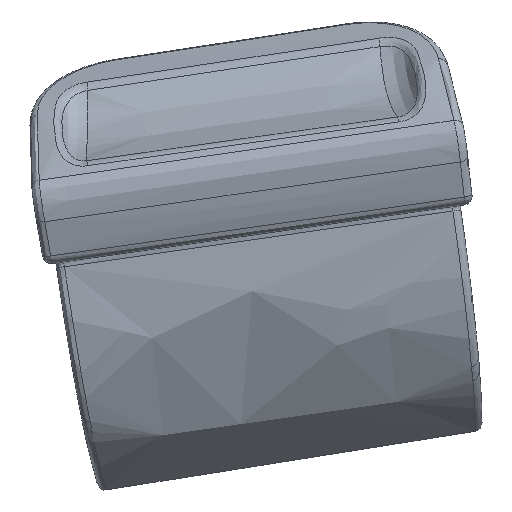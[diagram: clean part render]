
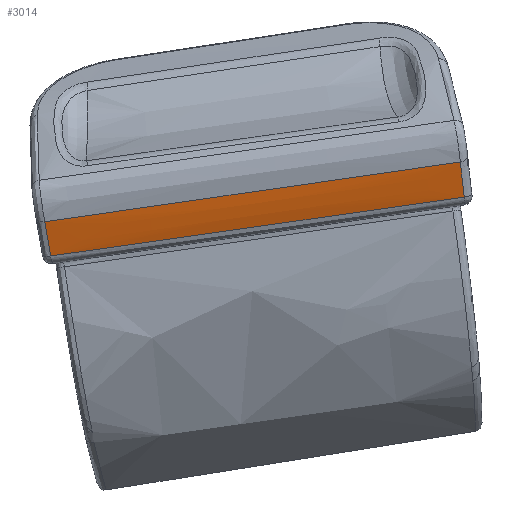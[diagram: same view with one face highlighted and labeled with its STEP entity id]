
A CAD part, front view. The second image highlights one B-rep face of the part: STEP entity #3014.
In plain terms, the highlighted free-form (B-spline) face has degree [5, 3] with [13, 4] control points.
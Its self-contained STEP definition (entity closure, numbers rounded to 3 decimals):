
#1346=CARTESIAN_POINT('Vertex',(-345.173,-986.772,483.1)) ;
#1350=CARTESIAN_POINT('Control Point',(-273.702,-988.544,493.4)) ;
#1351=CARTESIAN_POINT('Control Point',(-273.927,-988.543,493.376)) ;
#1352=CARTESIAN_POINT('Control Point',(-274.372,-988.531,493.297)) ;
#1353=CARTESIAN_POINT('Control Point',(-275.266,-988.519,493.179)) ;
#1354=CARTESIAN_POINT('Control Point',(-277.054,-988.485,492.915)) ;
#1355=CARTESIAN_POINT('Control Point',(-279.735,-988.438,492.533)) ;
#1356=CARTESIAN_POINT('Control Point',(-283.085,-988.373,492.047)) ;
#1357=CARTESIAN_POINT('Control Point',(-287.995,-988.276,491.341)) ;
#1358=CARTESIAN_POINT('Control Point',(-294.255,-988.143,490.437)) ;
#1359=CARTESIAN_POINT('Control Point',(-301.398,-987.982,489.408)) ;
#1360=CARTESIAN_POINT('Control Point',(-309.442,-987.787,488.248)) ;
#1361=CARTESIAN_POINT('Control Point',(-318.377,-987.555,486.961)) ;
#1362=CARTESIAN_POINT('Control Point',(-327.302,-987.309,485.674)) ;
#1363=CARTESIAN_POINT('Control Point',(-334.457,-987.102,484.645)) ;
#1364=CARTESIAN_POINT('Control Point',(-339.813,-986.939,483.871)) ;
#1365=CARTESIAN_POINT('Control Point',(-343.382,-986.829,483.359)) ;
#1366=CARTESIAN_POINT('Control Point',(-345.173,-986.772,483.1)) ;
#1367=CARTESIAN_POINT('Vertex',(-273.702,-988.544,493.4)) ;
#2932=CARTESIAN_POINT('Control Point',(-514.328,-975.152,460.662)) ;
#2933=CARTESIAN_POINT('Control Point',(-509.583,-965.301,427.321)) ;
#2934=CARTESIAN_POINT('Control Point',(-504.838,-944.886,393.979)) ;
#2935=CARTESIAN_POINT('Control Point',(-502.145,-920.368,360.345)) ;
#2936=CARTESIAN_POINT('Control Point',(-499.545,-977.539,462.793)) ;
#2937=CARTESIAN_POINT('Control Point',(-494.8,-967.688,429.451)) ;
#2938=CARTESIAN_POINT('Control Point',(-490.054,-947.273,396.11)) ;
#2939=CARTESIAN_POINT('Control Point',(-487.362,-922.755,362.476)) ;
#2940=CARTESIAN_POINT('Control Point',(-469.98,-981.527,467.053)) ;
#2941=CARTESIAN_POINT('Control Point',(-465.235,-971.676,433.712)) ;
#2942=CARTESIAN_POINT('Control Point',(-460.49,-951.261,400.37)) ;
#2943=CARTESIAN_POINT('Control Point',(-457.797,-926.743,366.736)) ;
#2944=CARTESIAN_POINT('Control Point',(-425.63,-984.508,473.444)) ;
#2945=CARTESIAN_POINT('Control Point',(-420.885,-974.658,440.103)) ;
#2946=CARTESIAN_POINT('Control Point',(-416.14,-954.242,406.761)) ;
#2947=CARTESIAN_POINT('Control Point',(-413.448,-929.725,373.127)) ;
#2948=CARTESIAN_POINT('Control Point',(-366.5,-986.845,481.965)) ;
#2949=CARTESIAN_POINT('Control Point',(-361.754,-976.994,448.624)) ;
#2950=CARTESIAN_POINT('Control Point',(-357.009,-956.579,415.282)) ;
#2951=CARTESIAN_POINT('Control Point',(-352.54,-930.267,381.901)) ;
#2952=CARTESIAN_POINT('Control Point',(-292.585,-989.026,492.617)) ;
#2953=CARTESIAN_POINT('Control Point',(-287.84,-979.176,459.275)) ;
#2954=CARTESIAN_POINT('Control Point',(-283.095,-958.76,425.933)) ;
#2955=CARTESIAN_POINT('Control Point',(-278.981,-930.296,392.501)) ;
#2956=CARTESIAN_POINT('Control Point',(-218.67,-990.151,503.268)) ;
#2957=CARTESIAN_POINT('Control Point',(-213.925,-980.3,469.926)) ;
#2958=CARTESIAN_POINT('Control Point',(-209.18,-959.885,436.585)) ;
#2959=CARTESIAN_POINT('Control Point',(-204.355,-930.343,403.254)) ;
#2960=CARTESIAN_POINT('Control Point',(-144.757,-989.099,513.919)) ;
#2961=CARTESIAN_POINT('Control Point',(-140.012,-979.248,480.578)) ;
#2962=CARTESIAN_POINT('Control Point',(-135.267,-958.833,447.236)) ;
#2963=CARTESIAN_POINT('Control Point',(-130.441,-930.727,413.905)) ;
#2964=CARTESIAN_POINT('Control Point',(-70.841,-985.695,524.57)) ;
#2965=CARTESIAN_POINT('Control Point',(-66.096,-975.844,491.229)) ;
#2966=CARTESIAN_POINT('Control Point',(-61.351,-955.429,457.887)) ;
#2967=CARTESIAN_POINT('Control Point',(-58.658,-929.476,424.253)) ;
#2968=CARTESIAN_POINT('Control Point',(-11.712,-979.308,533.091)) ;
#2969=CARTESIAN_POINT('Control Point',(-6.967,-969.457,499.749)) ;
#2970=CARTESIAN_POINT('Control Point',(-2.221,-949.041,466.407)) ;
#2971=CARTESIAN_POINT('Control Point',(0.471,-924.524,432.773)) ;
#2972=CARTESIAN_POINT('Control Point',(32.639,-971.312,539.482)) ;
#2973=CARTESIAN_POINT('Control Point',(37.384,-961.461,506.14)) ;
#2974=CARTESIAN_POINT('Control Point',(42.13,-941.046,472.798)) ;
#2975=CARTESIAN_POINT('Control Point',(44.822,-916.528,439.164)) ;
#2976=CARTESIAN_POINT('Control Point',(62.203,-964.283,543.742)) ;
#2977=CARTESIAN_POINT('Control Point',(66.948,-954.432,510.4)) ;
#2978=CARTESIAN_POINT('Control Point',(71.693,-934.017,477.058)) ;
#2979=CARTESIAN_POINT('Control Point',(74.386,-909.499,443.424)) ;
#2980=CARTESIAN_POINT('Control Point',(76.987,-960.297,545.872)) ;
#2981=CARTESIAN_POINT('Control Point',(81.732,-950.446,512.53)) ;
#2982=CARTESIAN_POINT('Control Point',(86.477,-930.031,479.188)) ;
#2983=CARTESIAN_POINT('Control Point',(89.17,-905.513,445.554)) ;
#2985=CARTESIAN_POINT('Control Point',(-344.167,-984.854,477.223)) ;
#2986=CARTESIAN_POINT('Control Point',(-344.505,-985.529,479.181)) ;
#2987=CARTESIAN_POINT('Control Point',(-344.841,-986.169,481.139)) ;
#2988=CARTESIAN_POINT('Control Point',(-345.173,-986.772,483.1)) ;
#2989=CARTESIAN_POINT('Vertex',(-344.167,-984.854,477.223)) ;
#2993=CARTESIAN_POINT('Control Point',(-344.167,-984.854,477.223)) ;
#2994=CARTESIAN_POINT('Control Point',(-326.378,-985.402,479.754)) ;
#2995=CARTESIAN_POINT('Control Point',(-308.602,-985.876,482.284)) ;
#2996=CARTESIAN_POINT('Control Point',(-290.809,-986.279,484.816)) ;
#2997=CARTESIAN_POINT('Control Point',(-273.024,-986.574,487.348)) ;
#2998=CARTESIAN_POINT('Vertex',(-273.024,-986.574,487.348)) ;
#3002=CARTESIAN_POINT('Control Point',(-273.702,-988.544,493.4)) ;
#3003=CARTESIAN_POINT('Control Point',(-273.535,-988.081,491.888)) ;
#3004=CARTESIAN_POINT('Control Point',(-273.364,-987.596,490.37)) ;
#3005=CARTESIAN_POINT('Control Point',(-273.193,-987.094,488.857)) ;
#3006=CARTESIAN_POINT('Control Point',(-273.024,-986.574,487.348)) ;
#3009=ORIENTED_EDGE('',*,*,#2991,.F.) ;
#3010=ORIENTED_EDGE('',*,*,#3000,.T.) ;
#3011=ORIENTED_EDGE('',*,*,#3007,.F.) ;
#3012=ORIENTED_EDGE('',*,*,#1369,.F.) ;
#3014=ADVANCED_FACE('Product57_AllCATPart.1\\01.2\\ShouBing.1\\\X2\624B67C4\X0\-2',(#3013),#2931,.F.) ;
#1349=B_SPLINE_CURVE_WITH_KNOTS('',5,(#1350,#1351,#1352,#1353,#1354,#1355,#1356,#1357,#1358,#1359,#1360,#1361,#1362,#1363,#1364,#1365,#1366),.UNSPECIFIED.,.F.,.U.,(6,1,1,1,1,1,1,1,1,1,1,1,6),(0.,1.129,2.259,4.518,9.035,13.553,18.07,27.105,36.14,45.176,54.211,63.246,72.281),.UNSPECIFIED.) ;
#2984=B_SPLINE_CURVE_WITH_KNOTS('',3,(#2985,#2986,#2987,#2988),.UNSPECIFIED.,.F.,.U.,(4,4),(0.,9.319),.UNSPECIFIED.) ;
#2992=B_SPLINE_CURVE_WITH_KNOTS('',4,(#2993,#2994,#2995,#2996,#2997),.UNSPECIFIED.,.F.,.U.,(5,5),(0.,101.882),.UNSPECIFIED.) ;
#3001=B_SPLINE_CURVE_WITH_KNOTS('',4,(#3002,#3003,#3004,#3005,#3006),.UNSPECIFIED.,.F.,.U.,(5,5),(0.,9.52),.UNSPECIFIED.) ;
#2931=B_SPLINE_SURFACE_WITH_KNOTS('',5,3,((#2932,#2933,#2934,#2935),(#2936,#2937,#2938,#2939),(#2940,#2941,#2942,#2943),(#2944,#2945,#2946,#2947),(#2948,#2949,#2950,#2951),(#2952,#2953,#2954,#2955),(#2956,#2957,#2958,#2959),(#2960,#2961,#2962,#2963),(#2964,#2965,#2966,#2967),(#2968,#2969,#2970,#2971),(#2972,#2973,#2974,#2975),(#2976,#2977,#2978,#2979),(#2980,#2981,#2982,#2983)),.UNSPECIFIED.,.F.,.F.,.U.,(6,1,1,1,1,1,1,1,6),(4,4),(0.,75.032,150.064,225.096,300.128,375.16,450.192,525.224,600.256),(0.,116.913),.UNSPECIFIED.) ;
#1369=EDGE_CURVE('',#1347,#1368,#1349,.F.) ;
#2991=EDGE_CURVE('',#2990,#1347,#2984,.T.) ;
#3000=EDGE_CURVE('',#2990,#2999,#2992,.T.) ;
#3007=EDGE_CURVE('',#1368,#2999,#3001,.T.) ;
#3008=EDGE_LOOP('',(#3009,#3010,#3011,#3012)) ;
#3013=FACE_OUTER_BOUND('',#3008,.T.) ;
#1347=VERTEX_POINT('',#1346) ;
#1368=VERTEX_POINT('',#1367) ;
#2990=VERTEX_POINT('',#2989) ;
#2999=VERTEX_POINT('',#2998) ;
